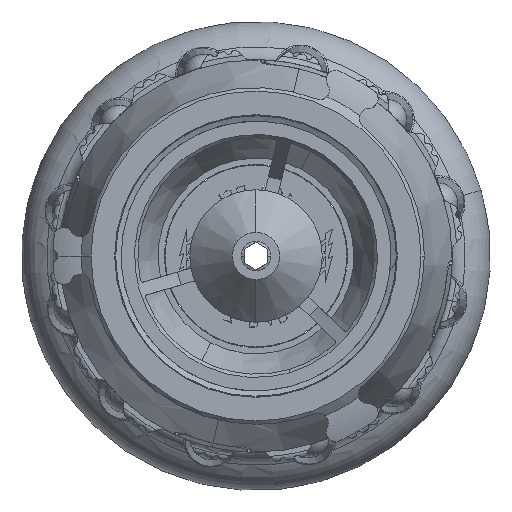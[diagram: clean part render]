
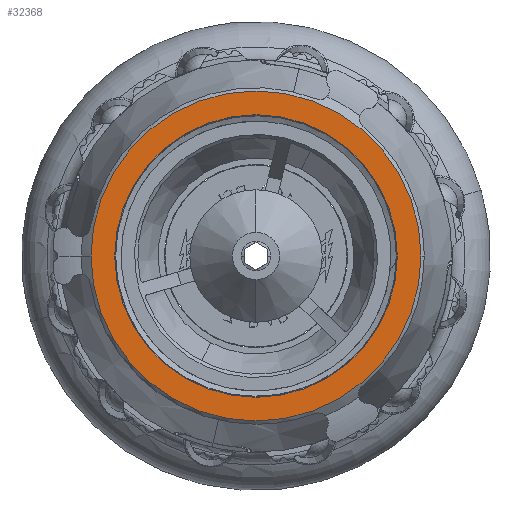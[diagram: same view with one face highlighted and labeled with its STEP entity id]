
A CAD part, left-side view. The second image highlights one B-rep face of the part: STEP entity #32368.
In plain terms, the highlighted planar face has unit normal (-1, 0, 0).
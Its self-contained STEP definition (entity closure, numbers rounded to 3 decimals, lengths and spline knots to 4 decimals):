
#697 = CARTESIAN_POINT ( 'NONE',  ( -8.3967, 1.745, 0. ) ) ;
#700 = PLANE ( 'NONE',  #32637 ) ;
#702 = DIRECTION ( 'NONE',  ( 1., 0., 0. ) ) ;
#703 = DIRECTION ( 'NONE',  ( 0., 1., 0. ) ) ;
#1578 = CARTESIAN_POINT ( 'NONE',  ( -8.3967, 0., 0. ) ) ;
#1579 = DIRECTION ( 'NONE',  ( 1., 0., 0. ) ) ;
#1580 = DIRECTION ( 'NONE',  ( 0., 1., 0. ) ) ;
#2400 = CARTESIAN_POINT ( 'NONE',  ( -8.3967, 0., 0. ) ) ;
#2401 = DIRECTION ( 'NONE',  ( 1., 0., 0. ) ) ;
#2402 = DIRECTION ( 'NONE',  ( 0., 1., 0. ) ) ;
#2405 = CARTESIAN_POINT ( 'NONE',  ( -8.3967, 0., 0. ) ) ;
#2406 = DIRECTION ( 'NONE',  ( 1., 0., 0. ) ) ;
#2407 = DIRECTION ( 'NONE',  ( 0., 1., 0. ) ) ;
#5700 = EDGE_CURVE ( 'NONE', #9815, #9812, #20832, .T. ) ;
#9590 = EDGE_LOOP ( 'NONE', ( #40843, #40845 ) ) ;
#9595 = EDGE_LOOP ( 'NONE', ( #40839, #40841 ) ) ;
#9767 = VERTEX_POINT ( 'NONE', #36478 ) ;
#9768 = VERTEX_POINT ( 'NONE', #36479 ) ;
#9812 = VERTEX_POINT ( 'NONE', #36523 ) ;
#9815 = VERTEX_POINT ( 'NONE', #36526 ) ;
#12581 = AXIS2_PLACEMENT_3D ( 'NONE', #15149, #15150, #15151 ) ;
#15149 = CARTESIAN_POINT ( 'NONE',  ( -8.3967, 0., 0. ) ) ;
#15150 = DIRECTION ( 'NONE',  ( 1., 0., 0. ) ) ;
#15151 = DIRECTION ( 'NONE',  ( 0., 1., 0. ) ) ;
#20832 = CIRCLE ( 'NONE', #12581, 1.745 ) ;
#31054 = FACE_BOUND ( 'NONE', #9590, .T. ) ;
#31067 = FACE_OUTER_BOUND ( 'NONE', #9595, .T. ) ;
#31452 = CIRCLE ( 'NONE', #32732, 1.4943 ) ;
#31635 = CIRCLE ( 'NONE', #32744, 1.745 ) ;
#31640 = CIRCLE ( 'NONE', #32743, 1.4943 ) ;
#32368 = ADVANCED_FACE ( 'NONE', ( #31067, #31054 ), #700, .F. ) ;
#32637 = AXIS2_PLACEMENT_3D ( 'NONE', #697, #702, #703 ) ;
#32732 = AXIS2_PLACEMENT_3D ( 'NONE', #1578, #1579, #1580 ) ;
#32743 = AXIS2_PLACEMENT_3D ( 'NONE', #2400, #2401, #2402 ) ;
#32744 = AXIS2_PLACEMENT_3D ( 'NONE', #2405, #2406, #2407 ) ;
#33804 = EDGE_CURVE ( 'NONE', #9768, #9767, #31452, .T. ) ;
#34150 = EDGE_CURVE ( 'NONE', #9767, #9768, #31640, .T. ) ;
#34153 = EDGE_CURVE ( 'NONE', #9812, #9815, #31635, .T. ) ;
#36478 = CARTESIAN_POINT ( 'NONE',  ( -8.3967, -1.4943, 0. ) ) ;
#36479 = CARTESIAN_POINT ( 'NONE',  ( -8.3967, 1.4943, 0. ) ) ;
#36523 = CARTESIAN_POINT ( 'NONE',  ( -8.3967, -1.745, 0. ) ) ;
#36526 = CARTESIAN_POINT ( 'NONE',  ( -8.3967, 1.745, 0. ) ) ;
#40839 = ORIENTED_EDGE ( 'NONE', *, *, #5700, .F. ) ;
#40841 = ORIENTED_EDGE ( 'NONE', *, *, #34153, .F. ) ;
#40843 = ORIENTED_EDGE ( 'NONE', *, *, #33804, .T. ) ;
#40845 = ORIENTED_EDGE ( 'NONE', *, *, #34150, .T. ) ;
